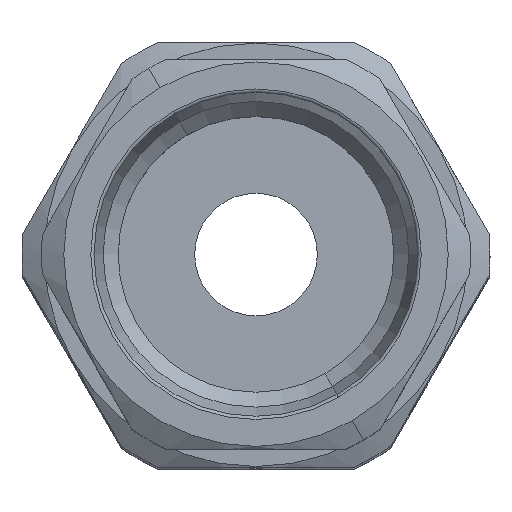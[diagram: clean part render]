
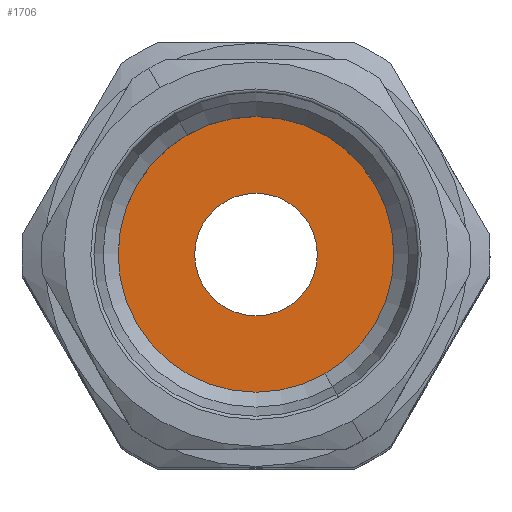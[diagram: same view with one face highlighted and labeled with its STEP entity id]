
A CAD part, top view. The second image highlights one B-rep face of the part: STEP entity #1706.
In plain terms, the highlighted planar face has unit normal (0, 0, 1).
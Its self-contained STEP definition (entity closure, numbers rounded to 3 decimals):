
#243 = ORIENTED_EDGE ( 'NONE', *, *, #1891, .F. ) ;
#295 = EDGE_CURVE ( 'NONE', #2201, #3080, #3566, .T. ) ;
#298 = CIRCLE ( 'NONE', #4473, 5.5 ) ;
#300 = EDGE_CURVE ( 'NONE', #1556, #1577, #298, .T. ) ;
#349 = ORIENTED_EDGE ( 'NONE', *, *, #295, .F. ) ;
#359 = DIRECTION ( 'NONE',  ( 0., 0., -1. ) ) ;
#460 = DIRECTION ( 'NONE',  ( 0., 0., -1. ) ) ;
#774 = CIRCLE ( 'NONE', #1357, 5.5 ) ;
#970 = CARTESIAN_POINT ( 'NONE',  ( 0., 0., 66.4 ) ) ;
#1013 = EDGE_LOOP ( 'NONE', ( #243, #349 ) ) ;
#1147 = CARTESIAN_POINT ( 'NONE',  ( 2.75, -4.763, 66.4 ) ) ;
#1197 = ORIENTED_EDGE ( 'NONE', *, *, #300, .T. ) ;
#1237 = CARTESIAN_POINT ( 'NONE',  ( -11.908, -6.875, 66.4 ) ) ;
#1308 = DIRECTION ( 'NONE',  ( 0., 0., -1. ) ) ;
#1357 = AXIS2_PLACEMENT_3D ( 'NONE', #4481, #1308, #2637 ) ;
#1432 = EDGE_CURVE ( 'NONE', #1577, #1556, #774, .T. ) ;
#1433 = CARTESIAN_POINT ( 'NONE',  ( 6.875, -11.908, 66.4 ) ) ;
#1513 = CIRCLE ( 'NONE', #1806, 13.75 ) ;
#1556 = VERTEX_POINT ( 'NONE', #2945 ) ;
#1576 = FACE_OUTER_BOUND ( 'NONE', #1013, .T. ) ;
#1577 = VERTEX_POINT ( 'NONE', #1147 ) ;
#1706 = ADVANCED_FACE ( 'NONE', ( #1576, #3012 ), #4432, .F. ) ;
#1723 = DIRECTION ( 'NONE',  ( 0., 0., -1. ) ) ;
#1806 = AXIS2_PLACEMENT_3D ( 'NONE', #970, #2722, #3465 ) ;
#1891 = EDGE_CURVE ( 'NONE', #3080, #2201, #1513, .T. ) ;
#2201 = VERTEX_POINT ( 'NONE', #3619 ) ;
#2453 = CARTESIAN_POINT ( 'NONE',  ( 0., 0., 66.4 ) ) ;
#2479 = AXIS2_PLACEMENT_3D ( 'NONE', #1237, #460, #3330 ) ;
#2515 = ORIENTED_EDGE ( 'NONE', *, *, #1432, .T. ) ;
#2521 = DIRECTION ( 'NONE',  ( 0.5, -0.866, 0. ) ) ;
#2623 = EDGE_LOOP ( 'NONE', ( #2515, #1197 ) ) ;
#2637 = DIRECTION ( 'NONE',  ( 0.5, -0.866, 0. ) ) ;
#2679 = AXIS2_PLACEMENT_3D ( 'NONE', #3185, #1723, #2521 ) ;
#2722 = DIRECTION ( 'NONE',  ( 0., 0., -1. ) ) ;
#2945 = CARTESIAN_POINT ( 'NONE',  ( -2.75, 4.763, 66.4 ) ) ;
#3012 = FACE_BOUND ( 'NONE', #2623, .T. ) ;
#3080 = VERTEX_POINT ( 'NONE', #1433 ) ;
#3185 = CARTESIAN_POINT ( 'NONE',  ( 0., 0., 66.4 ) ) ;
#3330 = DIRECTION ( 'NONE',  ( 0.5, -0.866, 0. ) ) ;
#3465 = DIRECTION ( 'NONE',  ( 0.5, -0.866, 0. ) ) ;
#3566 = CIRCLE ( 'NONE', #2679, 13.75 ) ;
#3597 = DIRECTION ( 'NONE',  ( 0.5, -0.866, 0. ) ) ;
#3619 = CARTESIAN_POINT ( 'NONE',  ( -6.875, 11.908, 66.4 ) ) ;
#4432 = PLANE ( 'NONE',  #2479 ) ;
#4473 = AXIS2_PLACEMENT_3D ( 'NONE', #2453, #359, #3597 ) ;
#4481 = CARTESIAN_POINT ( 'NONE',  ( 0., 0., 66.4 ) ) ;
